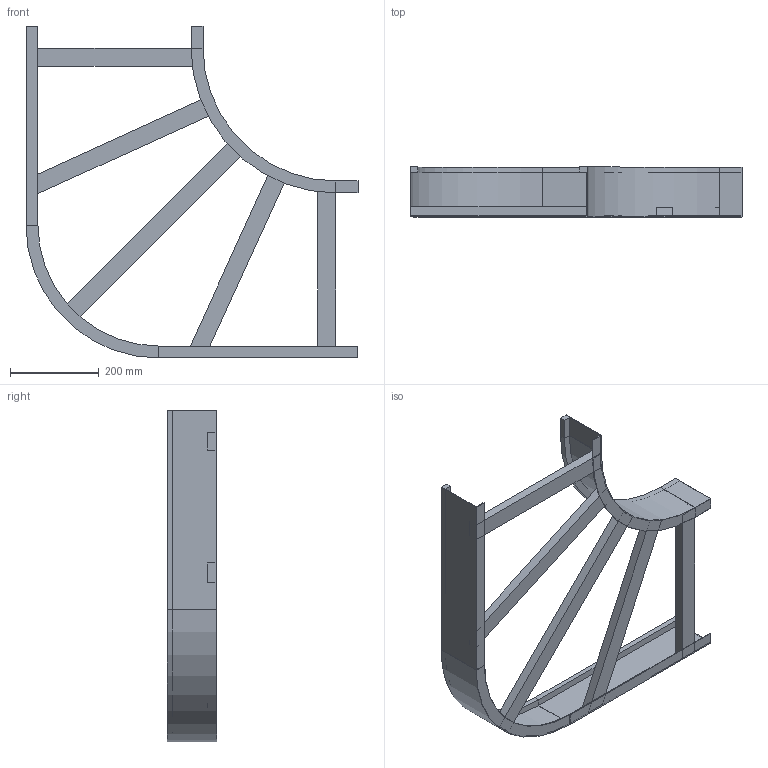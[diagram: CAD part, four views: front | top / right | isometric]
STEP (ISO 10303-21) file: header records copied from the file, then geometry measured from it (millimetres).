
FILE_DESCRIPTION (( 'STEP AP214' ), '1' );
FILE_NAME ('B2_10B3J400.step', '2025-02-21T15:25:14', ( '' ), ( '' ), 'SwSTEP 2.0', 'SolidWorks 2023', '' );
FILE_SCHEMA (( 'AUTOMOTIVE_DESIGN' ));
Length unit declared in the file: millimetre
Products named in the file (6): TRAVERSINO_L560; TRAVERSINO_400; B2_LONGH.INTERNO 90°_H112.5_R300; B2_LONGH.ESTERNO 90°_H112.5_R300+400; TRAVERSINO_500_SCANTONATO; B2_10B3J400
Assembly tree (7 placements, depth 2):
  B2_10B3J400
    B2_LONGH.INTERNO 90°_H112.5_R300
    B2_LONGH.ESTERNO 90°_H112.5_R300+400
    TRAVERSINO_400  x2
    TRAVERSINO_500_SCANTONATO  x2
    TRAVERSINO_L560
Bounding box: 750 x 112.5 x 750 mm (x, y, z)
Volume: 2756367.1 mm3; surface area: 890491 mm2
Topology: 7 solids, 7 shells, 82 faces, 172 edges, 104 vertices
Faces by surface type: plane 74, cylinder 8
Entity records: 2015 total; most frequent: DIRECTION 324, CARTESIAN_POINT 316, ORIENTED_EDGE 296, EDGE_CURVE 148, LINE 132, VECTOR 132, AXIS2_PLACEMENT_3D 96, VERTEX_POINT 88
